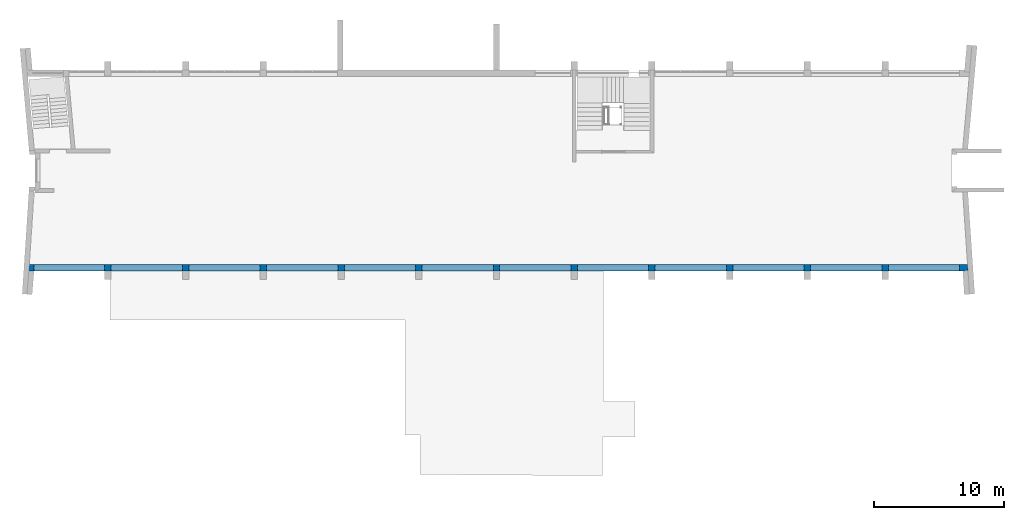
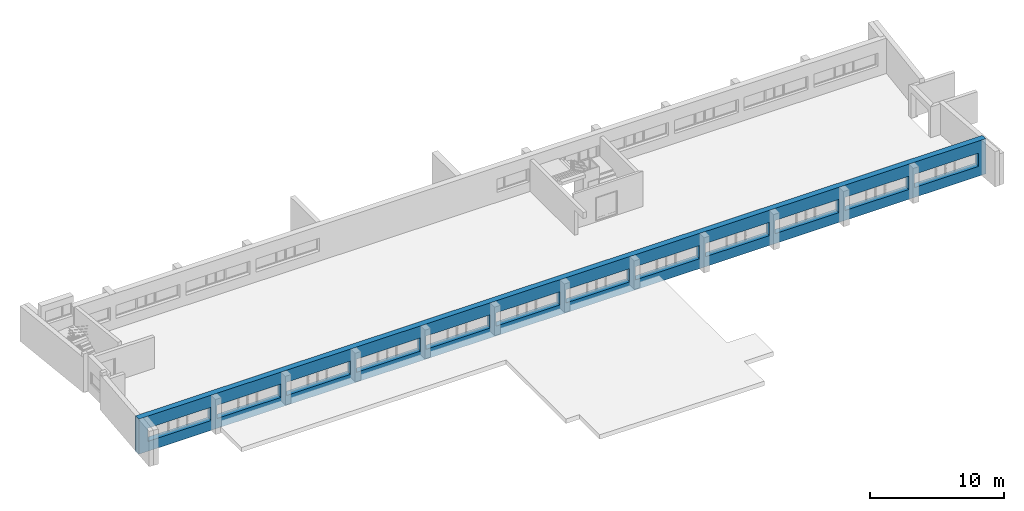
# One storey, part 2 of 10: 1 wall, 24 openings.
"""IFC2X3 building model written with IfcOpenShell, lengths in millimetres."""

from ifc_helpers import new_model, entity, si_unit, converted_unit, money_unit, direction, frame, origin_with_axes, place, context, subcontext, project, spatial, polyline, outline, extrude, material, layer, layer_set, layer_usage, type_object, element, save


model = new_model("IFC2X3")

# Units and contexts
model_context = context("Model", 3, precision=1e-05, world=origin_with_axes(), true_north=direction((0.0, 1.0)))
body_context = subcontext(model_context, "Body", "Model", "MODEL_VIEW")
ifc_project = project(units=[si_unit("LENGTHUNIT", "METRE", prefix="MILLI"), si_unit("AREAUNIT", "SQUARE_METRE"), si_unit("VOLUMEUNIT", "CUBIC_METRE"), converted_unit("PLANEANGLEUNIT", "DEGREE", entity("IfcPlaneAngleMeasure", 0.0174532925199), si_unit("PLANEANGLEUNIT", "RADIAN"), dimensions=[0, 0, 0, 0, 0, 0, 0]), si_unit("SOLIDANGLEUNIT", "STERADIAN"), money_unit("USD"), converted_unit("TIMEUNIT", "Year", entity("IfcTimeMeasure", 31556926.0), si_unit("TIMEUNIT", "SECOND"), dimensions=[0, 0, 0, 0, 0, 0, 0]), si_unit("MASSUNIT", "GRAM"), si_unit("THERMODYNAMICTEMPERATUREUNIT", "DEGREE_CELSIUS"), si_unit("LUMINOUSINTENSITYUNIT", "LUMEN")], contexts=[model_context])

# Site, building, storey
site_placement = place(None, origin_with_axes())
site = spatial("IfcSite", under=ifc_project, at=site_placement, Name="Site", CompositionType="ELEMENT")
building_placement = place(site_placement, origin_with_axes())
building = spatial("IfcBuilding", under=site, at=building_placement, Name="Building", CompositionType="ELEMENT")
storey_placement = place(building_placement, origin_with_axes())
storey = spatial("IfcBuildingStorey", under=building, at=storey_placement, Name="2KORRUS", CompositionType="ELEMENT", Elevation=0.0)

# Wall, openings
ifc_material = material(Name="Olemasolevad seinad tellis, uus viimistlus")
ifc_layer = layer(ifc_material, 500.0, ventilated="UNKNOWN")
ifc_layer_set = layer_set([ifc_layer], Name="Olemasolevad seinad tellis, uus viimistlus 500")
ifc_layer_usage = layer_usage(ifc_layer_set, "AXIS2", "POSITIVE", -400.0)
wall_type = type_object("IfcWallType", Name="Olemasolevad seinad tellis, uus viimistlus 500", PredefinedType="NOTDEFINED")
wall_placement = place(storey_placement, frame((-54605.6435345, -19739.2398994, 0.0), z_axis=(0.0, 0.0, 1.0), x_axis=(1.0, 0.0, 0.0)))
wall = element("IfcWallStandardCase", 1, at=wall_placement, inside=storey, type_object=wall_type, material=ifc_layer_usage, Name="VS1", ObjectType="VS1", context=body_context, shape_type="SweptSolid", body=[
    extrude(outline(polyline([(0.0, -400.0), (72856.41019, -400.0), (72823.1601874, 100.0), (0.0, 100.0), (0.0, -400.0)])), origin_with_axes(), (0.0, 0.0, 1.0), 3200.0),
])
opening_1_placement = place(wall_placement, frame((2118.76079194, 0.0, 900.0), z_axis=(0.0, 0.0, 1.0), x_axis=(1.0, 0.0, 0.0)))
element("IfcOpeningElement", 2, at=opening_1_placement, cuts=wall, Name="A1", context=body_context, shape_type="SweptSolid", body=[
    extrude(outline(polyline([(1346.586, 1200.0), (-1346.586, 1200.0), (-1346.586, 0.0), (1346.586, 0.0), (1346.586, 1200.0)])), frame((0.0, -200.0, 0.0), z_axis=(0.0, 1.0, 0.0), x_axis=(-1.0, 0.0, 0.0)), (0.0, 0.0, 1.0), 800.0),
    extrude(outline(polyline([(1346.586, 0.0), (-1346.586, 0.0), (-1346.586, -1200.0), (1346.586, -1200.0), (1346.586, 0.0)])), frame((0.0, -200.0, 0.0), z_axis=(0.0, -1.0, 0.0), x_axis=(-1.0, 0.0, 0.0)), (0.0, 0.0, 1.0), 700.0),
])
opening_2_placement = place(wall_placement, frame((4840.34683118, 0.0, 900.0), z_axis=(0.0, 0.0, 1.0), x_axis=(1.0, 0.0, 0.0)))
element("IfcOpeningElement", 3, at=opening_2_placement, cuts=wall, Name="A2", context=body_context, shape_type="SweptSolid", body=[
    extrude(outline(polyline([(-1375.0, 1200.0), (-1375.0, 0.0), (1375.0, 0.0), (1375.0, 1200.0), (-1375.0, 1200.0)])), frame((0.0, -200.0, 0.0), z_axis=(0.0, 1.0, 0.0), x_axis=(-1.0, 0.0, 0.0)), (0.0, 0.0, 1.0), 800.0),
    extrude(outline(polyline([(-1375.0, 0.0), (-1375.0, -1200.0), (1375.0, -1200.0), (1375.0, 0.0), (-1375.0, 0.0)])), frame((0.0, -200.0, 0.0), z_axis=(0.0, -1.0, 0.0), x_axis=(-1.0, 0.0, 0.0)), (0.0, 0.0, 1.0), 700.0),
])
opening_3_placement = place(wall_placement, frame((8090.34683118, 0.0, 900.0), z_axis=(0.0, 0.0, 1.0), x_axis=(1.0, 0.0, 0.0)))
element("IfcOpeningElement", 4, at=opening_3_placement, cuts=wall, Name="A1", context=body_context, shape_type="SweptSolid", body=[
    extrude(outline(polyline([(1375.0, 1200.0), (-1375.0, 1200.0), (-1375.0, 0.0), (1375.0, 0.0), (1375.0, 1200.0)])), frame((0.0, -200.0, 0.0), z_axis=(0.0, 1.0, 0.0), x_axis=(-1.0, 0.0, 0.0)), (0.0, 0.0, 1.0), 800.0),
    extrude(outline(polyline([(1375.0, 0.0), (-1375.0, 0.0), (-1375.0, -1200.0), (1375.0, -1200.0), (1375.0, 0.0)])), frame((0.0, -200.0, 0.0), z_axis=(0.0, -1.0, 0.0), x_axis=(-1.0, 0.0, 0.0)), (0.0, 0.0, 1.0), 700.0),
])
opening_4_placement = place(wall_placement, frame((10840.3468312, 0.0, 900.0), z_axis=(0.0, 0.0, 1.0), x_axis=(1.0, 0.0, 0.0)))
element("IfcOpeningElement", 5, at=opening_4_placement, cuts=wall, Name="A2", context=body_context, shape_type="SweptSolid", body=[
    extrude(outline(polyline([(-1375.0, 1200.0), (-1375.0, 0.0), (1375.0, 0.0), (1375.0, 1200.0), (-1375.0, 1200.0)])), frame((0.0, -200.0, 0.0), z_axis=(0.0, 1.0, 0.0), x_axis=(-1.0, 0.0, 0.0)), (0.0, 0.0, 1.0), 800.0),
    extrude(outline(polyline([(-1375.0, 0.0), (-1375.0, -1200.0), (1375.0, -1200.0), (1375.0, 0.0), (-1375.0, 0.0)])), frame((0.0, -200.0, 0.0), z_axis=(0.0, -1.0, 0.0), x_axis=(-1.0, 0.0, 0.0)), (0.0, 0.0, 1.0), 700.0),
])
opening_5_placement = place(wall_placement, frame((14090.3468312, 0.0, 900.0), z_axis=(0.0, 0.0, 1.0), x_axis=(1.0, 0.0, 0.0)))
element("IfcOpeningElement", 6, at=opening_5_placement, cuts=wall, Name="A1", context=body_context, shape_type="SweptSolid", body=[
    extrude(outline(polyline([(1375.0, 1200.0), (-1375.0, 1200.0), (-1375.0, 0.0), (1375.0, 0.0), (1375.0, 1200.0)])), frame((0.0, -200.0, 0.0), z_axis=(0.0, 1.0, 0.0), x_axis=(-1.0, 0.0, 0.0)), (0.0, 0.0, 1.0), 800.0),
    extrude(outline(polyline([(1375.0, 0.0), (-1375.0, 0.0), (-1375.0, -1200.0), (1375.0, -1200.0), (1375.0, 0.0)])), frame((0.0, -200.0, 0.0), z_axis=(0.0, -1.0, 0.0), x_axis=(-1.0, 0.0, 0.0)), (0.0, 0.0, 1.0), 700.0),
])
opening_6_placement = place(wall_placement, frame((16840.3468312, 0.0, 900.0), z_axis=(0.0, 0.0, 1.0), x_axis=(1.0, 0.0, 0.0)))
element("IfcOpeningElement", 7, at=opening_6_placement, cuts=wall, Name="A2", context=body_context, shape_type="SweptSolid", body=[
    extrude(outline(polyline([(-1375.0, 1200.0), (-1375.0, 0.0), (1375.0, 0.0), (1375.0, 1200.0), (-1375.0, 1200.0)])), frame((0.0, -200.0, 0.0), z_axis=(0.0, 1.0, 0.0), x_axis=(-1.0, 0.0, 0.0)), (0.0, 0.0, 1.0), 800.0),
    extrude(outline(polyline([(-1375.0, 0.0), (-1375.0, -1200.0), (1375.0, -1200.0), (1375.0, 0.0), (-1375.0, 0.0)])), frame((0.0, -200.0, 0.0), z_axis=(0.0, -1.0, 0.0), x_axis=(-1.0, 0.0, 0.0)), (0.0, 0.0, 1.0), 700.0),
])
opening_7_placement = place(wall_placement, frame((20090.3468312, 0.0, 900.0), z_axis=(0.0, 0.0, 1.0), x_axis=(1.0, 0.0, 0.0)))
element("IfcOpeningElement", 8, at=opening_7_placement, cuts=wall, Name="A1", context=body_context, shape_type="SweptSolid", body=[
    extrude(outline(polyline([(1375.0, 1200.0), (-1375.0, 1200.0), (-1375.0, 0.0), (1375.0, 0.0), (1375.0, 1200.0)])), frame((0.0, -200.0, 0.0), z_axis=(0.0, 1.0, 0.0), x_axis=(-1.0, 0.0, 0.0)), (0.0, 0.0, 1.0), 800.0),
    extrude(outline(polyline([(1375.0, 0.0), (-1375.0, 0.0), (-1375.0, -1200.0), (1375.0, -1200.0), (1375.0, 0.0)])), frame((0.0, -200.0, 0.0), z_axis=(0.0, -1.0, 0.0), x_axis=(-1.0, 0.0, 0.0)), (0.0, 0.0, 1.0), 700.0),
])
opening_8_placement = place(wall_placement, frame((22840.3468312, 0.0, 900.0), z_axis=(0.0, 0.0, 1.0), x_axis=(1.0, 0.0, 0.0)))
element("IfcOpeningElement", 9, at=opening_8_placement, cuts=wall, Name="A2", context=body_context, shape_type="SweptSolid", body=[
    extrude(outline(polyline([(-1375.0, 1200.0), (-1375.0, 0.0), (1375.0, 0.0), (1375.0, 1200.0), (-1375.0, 1200.0)])), frame((0.0, -200.0, 0.0), z_axis=(0.0, 1.0, 0.0), x_axis=(-1.0, 0.0, 0.0)), (0.0, 0.0, 1.0), 800.0),
    extrude(outline(polyline([(-1375.0, 0.0), (-1375.0, -1200.0), (1375.0, -1200.0), (1375.0, 0.0), (-1375.0, 0.0)])), frame((0.0, -200.0, 0.0), z_axis=(0.0, -1.0, 0.0), x_axis=(-1.0, 0.0, 0.0)), (0.0, 0.0, 1.0), 700.0),
])
opening_9_placement = place(wall_placement, frame((26090.3468312, 0.0, 900.0), z_axis=(0.0, 0.0, 1.0), x_axis=(1.0, 0.0, 0.0)))
element("IfcOpeningElement", 10, at=opening_9_placement, cuts=wall, Name="A1", context=body_context, shape_type="SweptSolid", body=[
    extrude(outline(polyline([(1375.0, 1200.0), (-1375.0, 1200.0), (-1375.0, 0.0), (1375.0, 0.0), (1375.0, 1200.0)])), frame((0.0, -200.0, 0.0), z_axis=(0.0, 1.0, 0.0), x_axis=(-1.0, 0.0, 0.0)), (0.0, 0.0, 1.0), 800.0),
    extrude(outline(polyline([(1375.0, 0.0), (-1375.0, 0.0), (-1375.0, -1200.0), (1375.0, -1200.0), (1375.0, 0.0)])), frame((0.0, -200.0, 0.0), z_axis=(0.0, -1.0, 0.0), x_axis=(-1.0, 0.0, 0.0)), (0.0, 0.0, 1.0), 700.0),
])
opening_10_placement = place(wall_placement, frame((28840.3468312, 0.0, 900.0), z_axis=(0.0, 0.0, 1.0), x_axis=(1.0, 0.0, 0.0)))
element("IfcOpeningElement", 11, at=opening_10_placement, cuts=wall, Name="A2", context=body_context, shape_type="SweptSolid", body=[
    extrude(outline(polyline([(-1375.0, 1200.0), (-1375.0, 0.0), (1375.0, 0.0), (1375.0, 1200.0), (-1375.0, 1200.0)])), frame((0.0, -200.0, 0.0), z_axis=(0.0, 1.0, 0.0), x_axis=(-1.0, 0.0, 0.0)), (0.0, 0.0, 1.0), 800.0),
    extrude(outline(polyline([(-1375.0, 0.0), (-1375.0, -1200.0), (1375.0, -1200.0), (1375.0, 0.0), (-1375.0, 0.0)])), frame((0.0, -200.0, 0.0), z_axis=(0.0, -1.0, 0.0), x_axis=(-1.0, 0.0, 0.0)), (0.0, 0.0, 1.0), 700.0),
])
opening_11_placement = place(wall_placement, frame((32090.3468312, 0.0, 900.0), z_axis=(0.0, 0.0, 1.0), x_axis=(1.0, 0.0, 0.0)))
element("IfcOpeningElement", 12, at=opening_11_placement, cuts=wall, Name="A1", context=body_context, shape_type="SweptSolid", body=[
    extrude(outline(polyline([(1375.0, 1200.0), (-1375.0, 1200.0), (-1375.0, 0.0), (1375.0, 0.0), (1375.0, 1200.0)])), frame((0.0, -200.0, 0.0), z_axis=(0.0, 1.0, 0.0), x_axis=(-1.0, 0.0, 0.0)), (0.0, 0.0, 1.0), 800.0),
    extrude(outline(polyline([(1375.0, 0.0), (-1375.0, 0.0), (-1375.0, -1200.0), (1375.0, -1200.0), (1375.0, 0.0)])), frame((0.0, -200.0, 0.0), z_axis=(0.0, -1.0, 0.0), x_axis=(-1.0, 0.0, 0.0)), (0.0, 0.0, 1.0), 700.0),
])
opening_12_placement = place(wall_placement, frame((34840.3468312, 0.0, 900.0), z_axis=(0.0, 0.0, 1.0), x_axis=(1.0, 0.0, 0.0)))
element("IfcOpeningElement", 13, at=opening_12_placement, cuts=wall, Name="A2", context=body_context, shape_type="SweptSolid", body=[
    extrude(outline(polyline([(-1375.0, 1200.0), (-1375.0, 0.0), (1375.0, 0.0), (1375.0, 1200.0), (-1375.0, 1200.0)])), frame((0.0, -200.0, 0.0), z_axis=(0.0, 1.0, 0.0), x_axis=(-1.0, 0.0, 0.0)), (0.0, 0.0, 1.0), 800.0),
    extrude(outline(polyline([(-1375.0, 0.0), (-1375.0, -1200.0), (1375.0, -1200.0), (1375.0, 0.0), (-1375.0, 0.0)])), frame((0.0, -200.0, 0.0), z_axis=(0.0, -1.0, 0.0), x_axis=(-1.0, 0.0, 0.0)), (0.0, 0.0, 1.0), 700.0),
])
opening_13_placement = place(wall_placement, frame((38090.3468312, 0.0, 900.0), z_axis=(0.0, 0.0, 1.0), x_axis=(1.0, 0.0, 0.0)))
element("IfcOpeningElement", 14, at=opening_13_placement, cuts=wall, Name="A1", context=body_context, shape_type="SweptSolid", body=[
    extrude(outline(polyline([(1375.0, 1200.0), (-1375.0, 1200.0), (-1375.0, 0.0), (1375.0, 0.0), (1375.0, 1200.0)])), frame((0.0, -200.0, 0.0), z_axis=(0.0, 1.0, 0.0), x_axis=(-1.0, 0.0, 0.0)), (0.0, 0.0, 1.0), 800.0),
    extrude(outline(polyline([(1375.0, 0.0), (-1375.0, 0.0), (-1375.0, -1200.0), (1375.0, -1200.0), (1375.0, 0.0)])), frame((0.0, -200.0, 0.0), z_axis=(0.0, -1.0, 0.0), x_axis=(-1.0, 0.0, 0.0)), (0.0, 0.0, 1.0), 700.0),
])
opening_14_placement = place(wall_placement, frame((40840.3468312, 0.0, 900.0), z_axis=(0.0, 0.0, 1.0), x_axis=(1.0, 0.0, 0.0)))
element("IfcOpeningElement", 15, at=opening_14_placement, cuts=wall, Name="A2", context=body_context, shape_type="SweptSolid", body=[
    extrude(outline(polyline([(-1375.0, 1200.0), (-1375.0, 0.0), (1375.0, 0.0), (1375.0, 1200.0), (-1375.0, 1200.0)])), frame((0.0, -200.0, 0.0), z_axis=(0.0, 1.0, 0.0), x_axis=(-1.0, 0.0, 0.0)), (0.0, 0.0, 1.0), 800.0),
    extrude(outline(polyline([(-1375.0, 0.0), (-1375.0, -1200.0), (1375.0, -1200.0), (1375.0, 0.0), (-1375.0, 0.0)])), frame((0.0, -200.0, 0.0), z_axis=(0.0, -1.0, 0.0), x_axis=(-1.0, 0.0, 0.0)), (0.0, 0.0, 1.0), 700.0),
])
opening_15_placement = place(wall_placement, frame((44090.3468312, 0.0, 900.0), z_axis=(0.0, 0.0, 1.0), x_axis=(1.0, 0.0, 0.0)))
element("IfcOpeningElement", 16, at=opening_15_placement, cuts=wall, Name="A1", context=body_context, shape_type="SweptSolid", body=[
    extrude(outline(polyline([(1375.0, 1200.0), (-1375.0, 1200.0), (-1375.0, 0.0), (1375.0, 0.0), (1375.0, 1200.0)])), frame((0.0, -200.0, 0.0), z_axis=(0.0, 1.0, 0.0), x_axis=(-1.0, 0.0, 0.0)), (0.0, 0.0, 1.0), 800.0),
    extrude(outline(polyline([(1375.0, 0.0), (-1375.0, 0.0), (-1375.0, -1200.0), (1375.0, -1200.0), (1375.0, 0.0)])), frame((0.0, -200.0, 0.0), z_axis=(0.0, -1.0, 0.0), x_axis=(-1.0, 0.0, 0.0)), (0.0, 0.0, 1.0), 700.0),
])
opening_16_placement = place(wall_placement, frame((46840.3468312, 0.0, 900.0), z_axis=(0.0, 0.0, 1.0), x_axis=(1.0, 0.0, 0.0)))
element("IfcOpeningElement", 17, at=opening_16_placement, cuts=wall, Name="A2", context=body_context, shape_type="SweptSolid", body=[
    extrude(outline(polyline([(-1375.0, 1200.0), (-1375.0, 0.0), (1375.0, 0.0), (1375.0, 1200.0), (-1375.0, 1200.0)])), frame((0.0, -200.0, 0.0), z_axis=(0.0, 1.0, 0.0), x_axis=(-1.0, 0.0, 0.0)), (0.0, 0.0, 1.0), 800.0),
    extrude(outline(polyline([(-1375.0, 0.0), (-1375.0, -1200.0), (1375.0, -1200.0), (1375.0, 0.0), (-1375.0, 0.0)])), frame((0.0, -200.0, 0.0), z_axis=(0.0, -1.0, 0.0), x_axis=(-1.0, 0.0, 0.0)), (0.0, 0.0, 1.0), 700.0),
])
opening_17_placement = place(wall_placement, frame((50090.3468312, 0.0, 900.0), z_axis=(0.0, 0.0, 1.0), x_axis=(1.0, 0.0, 0.0)))
element("IfcOpeningElement", 18, at=opening_17_placement, cuts=wall, Name="A1", context=body_context, shape_type="SweptSolid", body=[
    extrude(outline(polyline([(1375.0, 1200.0), (-1375.0, 1200.0), (-1375.0, 0.0), (1375.0, 0.0), (1375.0, 1200.0)])), frame((0.0, -200.0, 0.0), z_axis=(0.0, 1.0, 0.0), x_axis=(-1.0, 0.0, 0.0)), (0.0, 0.0, 1.0), 800.0),
    extrude(outline(polyline([(1375.0, 0.0), (-1375.0, 0.0), (-1375.0, -1200.0), (1375.0, -1200.0), (1375.0, 0.0)])), frame((0.0, -200.0, 0.0), z_axis=(0.0, -1.0, 0.0), x_axis=(-1.0, 0.0, 0.0)), (0.0, 0.0, 1.0), 700.0),
])
opening_18_placement = place(wall_placement, frame((52840.3468312, 0.0, 900.0), z_axis=(0.0, 0.0, 1.0), x_axis=(1.0, 0.0, 0.0)))
element("IfcOpeningElement", 19, at=opening_18_placement, cuts=wall, Name="A2", context=body_context, shape_type="SweptSolid", body=[
    extrude(outline(polyline([(-1375.0, 1200.0), (-1375.0, 0.0), (1375.0, 0.0), (1375.0, 1200.0), (-1375.0, 1200.0)])), frame((0.0, -200.0, 0.0), z_axis=(0.0, 1.0, 0.0), x_axis=(-1.0, 0.0, 0.0)), (0.0, 0.0, 1.0), 800.0),
    extrude(outline(polyline([(-1375.0, 0.0), (-1375.0, -1200.0), (1375.0, -1200.0), (1375.0, 0.0), (-1375.0, 0.0)])), frame((0.0, -200.0, 0.0), z_axis=(0.0, -1.0, 0.0), x_axis=(-1.0, 0.0, 0.0)), (0.0, 0.0, 1.0), 700.0),
])
opening_19_placement = place(wall_placement, frame((56090.3468312, 0.0, 900.0), z_axis=(0.0, 0.0, 1.0), x_axis=(1.0, 0.0, 0.0)))
element("IfcOpeningElement", 20, at=opening_19_placement, cuts=wall, Name="A1", context=body_context, shape_type="SweptSolid", body=[
    extrude(outline(polyline([(1375.0, 1200.0), (-1375.0, 1200.0), (-1375.0, 0.0), (1375.0, 0.0), (1375.0, 1200.0)])), frame((0.0, -200.0, 0.0), z_axis=(0.0, 1.0, 0.0), x_axis=(-1.0, 0.0, 0.0)), (0.0, 0.0, 1.0), 800.0),
    extrude(outline(polyline([(1375.0, 0.0), (-1375.0, 0.0), (-1375.0, -1200.0), (1375.0, -1200.0), (1375.0, 0.0)])), frame((0.0, -200.0, 0.0), z_axis=(0.0, -1.0, 0.0), x_axis=(-1.0, 0.0, 0.0)), (0.0, 0.0, 1.0), 700.0),
])
opening_20_placement = place(wall_placement, frame((58840.3468312, 0.0, 900.0), z_axis=(0.0, 0.0, 1.0), x_axis=(1.0, 0.0, 0.0)))
element("IfcOpeningElement", 21, at=opening_20_placement, cuts=wall, Name="A2", context=body_context, shape_type="SweptSolid", body=[
    extrude(outline(polyline([(-1375.0, 1200.0), (-1375.0, 0.0), (1375.0, 0.0), (1375.0, 1200.0), (-1375.0, 1200.0)])), frame((0.0, -200.0, 0.0), z_axis=(0.0, 1.0, 0.0), x_axis=(-1.0, 0.0, 0.0)), (0.0, 0.0, 1.0), 800.0),
    extrude(outline(polyline([(-1375.0, 0.0), (-1375.0, -1200.0), (1375.0, -1200.0), (1375.0, 0.0), (-1375.0, 0.0)])), frame((0.0, -200.0, 0.0), z_axis=(0.0, -1.0, 0.0), x_axis=(-1.0, 0.0, 0.0)), (0.0, 0.0, 1.0), 700.0),
])
opening_21_placement = place(wall_placement, frame((62091.3616729, 0.0, 900.0), z_axis=(0.0, 0.0, 1.0), x_axis=(1.0, 0.0, 0.0)))
element("IfcOpeningElement", 22, at=opening_21_placement, cuts=wall, Name="A1", context=body_context, shape_type="SweptSolid", body=[
    extrude(outline(polyline([(1375.0, 1200.0), (-1375.0, 1200.0), (-1375.0, 0.0), (1375.0, 0.0), (1375.0, 1200.0)])), frame((0.0, -200.0, 0.0), z_axis=(0.0, 1.0, 0.0), x_axis=(-1.0, 0.0, 0.0)), (0.0, 0.0, 1.0), 800.0),
    extrude(outline(polyline([(1375.0, 0.0), (-1375.0, 0.0), (-1375.0, -1200.0), (1375.0, -1200.0), (1375.0, 0.0)])), frame((0.0, -200.0, 0.0), z_axis=(0.0, -1.0, 0.0), x_axis=(-1.0, 0.0, 0.0)), (0.0, 0.0, 1.0), 700.0),
])
opening_22_placement = place(wall_placement, frame((64840.3468312, 0.0, 900.0), z_axis=(0.0, 0.0, 1.0), x_axis=(1.0, 0.0, 0.0)))
element("IfcOpeningElement", 23, at=opening_22_placement, cuts=wall, Name="A2", context=body_context, shape_type="SweptSolid", body=[
    extrude(outline(polyline([(-1375.0, 1200.0), (-1375.0, 0.0), (1375.0, 0.0), (1375.0, 1200.0), (-1375.0, 1200.0)])), frame((0.0, -200.0, 0.0), z_axis=(0.0, 1.0, 0.0), x_axis=(-1.0, 0.0, 0.0)), (0.0, 0.0, 1.0), 800.0),
    extrude(outline(polyline([(-1375.0, 0.0), (-1375.0, -1200.0), (1375.0, -1200.0), (1375.0, 0.0), (-1375.0, 0.0)])), frame((0.0, -200.0, 0.0), z_axis=(0.0, -1.0, 0.0), x_axis=(-1.0, 0.0, 0.0)), (0.0, 0.0, 1.0), 700.0),
])
opening_23_placement = place(wall_placement, frame((68090.3468312, 0.0, 900.0), z_axis=(0.0, 0.0, 1.0), x_axis=(1.0, 0.0, 0.0)))
element("IfcOpeningElement", 24, at=opening_23_placement, cuts=wall, Name="A1", context=body_context, shape_type="SweptSolid", body=[
    extrude(outline(polyline([(1375.0, 1200.0), (-1375.0, 1200.0), (-1375.0, 0.0), (1375.0, 0.0), (1375.0, 1200.0)])), frame((0.0, -200.0, 0.0), z_axis=(0.0, 1.0, 0.0), x_axis=(-1.0, 0.0, 0.0)), (0.0, 0.0, 1.0), 800.0),
    extrude(outline(polyline([(1375.0, 0.0), (-1375.0, 0.0), (-1375.0, -1200.0), (1375.0, -1200.0), (1375.0, 0.0)])), frame((0.0, -200.0, 0.0), z_axis=(0.0, -1.0, 0.0), x_axis=(-1.0, 0.0, 0.0)), (0.0, 0.0, 1.0), 700.0),
])
opening_24_placement = place(wall_placement, frame((70840.3468312, 0.0, 900.0), z_axis=(0.0, 0.0, 1.0), x_axis=(1.0, 0.0, 0.0)))
element("IfcOpeningElement", 25, at=opening_24_placement, cuts=wall, Name="A2", context=body_context, shape_type="SweptSolid", body=[
    extrude(outline(polyline([(-1375.0, 1200.0), (-1375.0, 0.0), (1375.0, 0.0), (1375.0, 1200.0), (-1375.0, 1200.0)])), frame((0.0, -200.0, 0.0), z_axis=(0.0, 1.0, 0.0), x_axis=(-1.0, 0.0, 0.0)), (0.0, 0.0, 1.0), 800.0),
    extrude(outline(polyline([(-1375.0, 0.0), (-1375.0, -1200.0), (1375.0, -1200.0), (1375.0, 0.0), (-1375.0, 0.0)])), frame((0.0, -200.0, 0.0), z_axis=(0.0, -1.0, 0.0), x_axis=(-1.0, 0.0, 0.0)), (0.0, 0.0, 1.0), 700.0),
])

save(model, "model.ifc")
